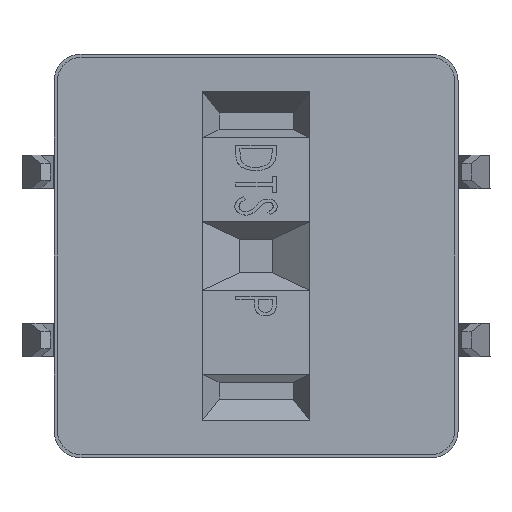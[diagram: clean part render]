
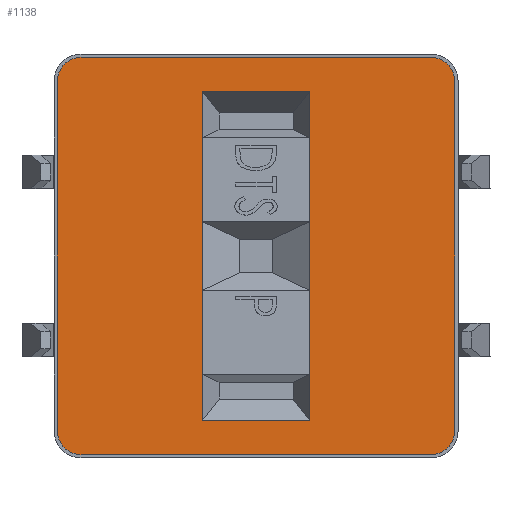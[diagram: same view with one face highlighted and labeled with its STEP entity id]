
A CAD part, front view. The second image highlights one B-rep face of the part: STEP entity #1138.
In plain terms, the highlighted planar face has unit normal (0, -1, 0).
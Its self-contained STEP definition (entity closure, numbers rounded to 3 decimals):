
#141 = VERTEX_POINT ( 'NONE', #6890 ) ;
#207 = ORIENTED_EDGE ( 'NONE', *, *, #1035, .T. ) ;
#245 = DIRECTION ( 'NONE',  ( 0., 0., -1. ) ) ;
#248 = DIRECTION ( 'NONE',  ( 0., -1., 0. ) ) ;
#250 = AXIS2_PLACEMENT_3D ( 'NONE', #6394, #6367, #6353 ) ;
#261 = ORIENTED_EDGE ( 'NONE', *, *, #6810, .T. ) ;
#336 = LINE ( 'NONE', #5105, #2547 ) ;
#341 = PLANE ( 'NONE',  #8314 ) ;
#406 = VERTEX_POINT ( 'NONE', #5178 ) ;
#413 = DIRECTION ( 'NONE',  ( 0., -1., 0. ) ) ;
#539 = CARTESIAN_POINT ( 'NONE',  ( -5.253, 0.542, -5.54 ) ) ;
#788 = CARTESIAN_POINT ( 'NONE',  ( -5.953, 0.542, -5.54 ) ) ;
#1012 = DIRECTION ( 'NONE',  ( 0., 0., -1. ) ) ;
#1013 = CARTESIAN_POINT ( 'NONE',  ( 1.547, 0.542, 4.56 ) ) ;
#1035 = EDGE_CURVE ( 'NONE', #10457, #2028, #8129, .T. ) ;
#1062 = ORIENTED_EDGE ( 'NONE', *, *, #7969, .T. ) ;
#1138 = ADVANCED_FACE ( 'NONE', ( #7958, #8070 ), #341, .T. ) ;
#1317 = CARTESIAN_POINT ( 'NONE',  ( -5.953, 0.542, 4.86 ) ) ;
#1442 = EDGE_CURVE ( 'NONE', #3507, #9257, #336, .T. ) ;
#1466 = VECTOR ( 'NONE', #1012, 1000. ) ;
#1723 = ORIENTED_EDGE ( 'NONE', *, *, #8645, .T. ) ;
#1908 = CARTESIAN_POINT ( 'NONE',  ( 5.147, 0.542, 4.86 ) ) ;
#2028 = VERTEX_POINT ( 'NONE', #7880 ) ;
#2242 = AXIS2_PLACEMENT_3D ( 'NONE', #8650, #9929, #2347 ) ;
#2347 = DIRECTION ( 'NONE',  ( 0., 0., -1. ) ) ;
#2425 = VERTEX_POINT ( 'NONE', #5225 ) ;
#2547 = VECTOR ( 'NONE', #3496, 1000. ) ;
#2551 = DIRECTION ( 'NONE',  ( 0., 0., -1. ) ) ;
#2736 = CIRCLE ( 'NONE', #5977, 0.7 ) ;
#2788 = DIRECTION ( 'NONE',  ( 0., 0., -1. ) ) ;
#2827 = DIRECTION ( 'NONE',  ( 0., 0., 1. ) ) ;
#3137 = VERTEX_POINT ( 'NONE', #1013 ) ;
#3404 = VECTOR ( 'NONE', #7117, 1000. ) ;
#3496 = DIRECTION ( 'NONE',  ( -1., 0., 0. ) ) ;
#3507 = VERTEX_POINT ( 'NONE', #10890 ) ;
#3513 = LINE ( 'NONE', #5436, #3404 ) ;
#3768 = CARTESIAN_POINT ( 'NONE',  ( 5.847, 0.542, -5.54 ) ) ;
#3851 = CIRCLE ( 'NONE', #2242, 0.7 ) ;
#4064 = CARTESIAN_POINT ( 'NONE',  ( 5.147, 0.542, -6.24 ) ) ;
#4081 = ORIENTED_EDGE ( 'NONE', *, *, #6441, .T. ) ;
#4124 = VERTEX_POINT ( 'NONE', #7025 ) ;
#4230 = EDGE_CURVE ( 'NONE', #2425, #10457, #5679, .T. ) ;
#4266 = ORIENTED_EDGE ( 'NONE', *, *, #7815, .T. ) ;
#4593 = VERTEX_POINT ( 'NONE', #3768 ) ;
#4989 = CARTESIAN_POINT ( 'NONE',  ( -5.253, 0.542, -6.24 ) ) ;
#5096 = VERTEX_POINT ( 'NONE', #4064 ) ;
#5105 = CARTESIAN_POINT ( 'NONE',  ( -5.253, 0.542, -5.24 ) ) ;
#5178 = CARTESIAN_POINT ( 'NONE',  ( -1.653, 0.542, 4.56 ) ) ;
#5225 = CARTESIAN_POINT ( 'NONE',  ( -5.253, 0.542, 5.56 ) ) ;
#5285 = DIRECTION ( 'NONE',  ( -1., 0., 0. ) ) ;
#5366 = LINE ( 'NONE', #7183, #5882 ) ;
#5436 = CARTESIAN_POINT ( 'NONE',  ( 5.847, 0.542, -5.54 ) ) ;
#5557 = VERTEX_POINT ( 'NONE', #8271 ) ;
#5641 = CARTESIAN_POINT ( 'NONE',  ( -5.253, 0.542, -5.54 ) ) ;
#5679 = CIRCLE ( 'NONE', #250, 0.7 ) ;
#5882 = VECTOR ( 'NONE', #2827, 1000. ) ;
#5977 = AXIS2_PLACEMENT_3D ( 'NONE', #5641, #413, #6527 ) ;
#6146 = CARTESIAN_POINT ( 'NONE',  ( -5.253, 0.542, 5.56 ) ) ;
#6353 = DIRECTION ( 'NONE',  ( 0., 0., -1. ) ) ;
#6367 = DIRECTION ( 'NONE',  ( 0., -1., 0. ) ) ;
#6394 = CARTESIAN_POINT ( 'NONE',  ( -5.253, 0.542, 4.86 ) ) ;
#6441 = EDGE_CURVE ( 'NONE', #3137, #3507, #10940, .T. ) ;
#6527 = DIRECTION ( 'NONE',  ( 0., 0., -1. ) ) ;
#6559 = EDGE_CURVE ( 'NONE', #4124, #5557, #7489, .T. ) ;
#6810 = EDGE_CURVE ( 'NONE', #406, #3137, #10557, .T. ) ;
#6835 = LINE ( 'NONE', #4989, #7267 ) ;
#6842 = AXIS2_PLACEMENT_3D ( 'NONE', #1908, #7997, #2788 ) ;
#6890 = CARTESIAN_POINT ( 'NONE',  ( -5.253, 0.542, -6.24 ) ) ;
#6987 = ORIENTED_EDGE ( 'NONE', *, *, #9725, .T. ) ;
#7025 = CARTESIAN_POINT ( 'NONE',  ( 5.847, 0.542, 4.86 ) ) ;
#7107 = ORIENTED_EDGE ( 'NONE', *, *, #4230, .T. ) ;
#7117 = DIRECTION ( 'NONE',  ( 0., 0., 1. ) ) ;
#7183 = CARTESIAN_POINT ( 'NONE',  ( -1.653, 0.542, -5.54 ) ) ;
#7267 = VECTOR ( 'NONE', #7547, 1000. ) ;
#7320 = EDGE_LOOP ( 'NONE', ( #8540, #261, #4081, #10259 ) ) ;
#7400 = EDGE_LOOP ( 'NONE', ( #6987, #9822, #4266, #10124, #1723, #7107, #207, #1062 ) ) ;
#7489 = CIRCLE ( 'NONE', #6842, 0.7 ) ;
#7547 = DIRECTION ( 'NONE',  ( 1., 0., 0. ) ) ;
#7707 = EDGE_CURVE ( 'NONE', #5096, #4593, #3851, .T. ) ;
#7815 = EDGE_CURVE ( 'NONE', #4593, #4124, #3513, .T. ) ;
#7880 = CARTESIAN_POINT ( 'NONE',  ( -5.953, 0.542, -5.54 ) ) ;
#7958 = FACE_OUTER_BOUND ( 'NONE', #7400, .T. ) ;
#7969 = EDGE_CURVE ( 'NONE', #2028, #141, #2736, .T. ) ;
#7997 = DIRECTION ( 'NONE',  ( 0., -1., 0. ) ) ;
#8070 = FACE_BOUND ( 'NONE', #7320, .T. ) ;
#8129 = LINE ( 'NONE', #788, #1466 ) ;
#8271 = CARTESIAN_POINT ( 'NONE',  ( 5.147, 0.542, 5.56 ) ) ;
#8314 = AXIS2_PLACEMENT_3D ( 'NONE', #539, #248, #245 ) ;
#8378 = VECTOR ( 'NONE', #2551, 1000. ) ;
#8540 = ORIENTED_EDGE ( 'NONE', *, *, #9436, .T. ) ;
#8587 = CARTESIAN_POINT ( 'NONE',  ( 1.547, 0.542, -5.54 ) ) ;
#8645 = EDGE_CURVE ( 'NONE', #5557, #2425, #8898, .T. ) ;
#8650 = CARTESIAN_POINT ( 'NONE',  ( 5.147, 0.542, -5.54 ) ) ;
#8828 = VECTOR ( 'NONE', #5285, 1000. ) ;
#8898 = LINE ( 'NONE', #6146, #8828 ) ;
#9257 = VERTEX_POINT ( 'NONE', #9370 ) ;
#9370 = CARTESIAN_POINT ( 'NONE',  ( -1.653, 0.542, -5.24 ) ) ;
#9436 = EDGE_CURVE ( 'NONE', #9257, #406, #5366, .T. ) ;
#9471 = DIRECTION ( 'NONE',  ( 1., 0., 0. ) ) ;
#9565 = CARTESIAN_POINT ( 'NONE',  ( -5.253, 0.542, 4.56 ) ) ;
#9725 = EDGE_CURVE ( 'NONE', #141, #5096, #6835, .T. ) ;
#9822 = ORIENTED_EDGE ( 'NONE', *, *, #7707, .T. ) ;
#9929 = DIRECTION ( 'NONE',  ( 0., -1., 0. ) ) ;
#10124 = ORIENTED_EDGE ( 'NONE', *, *, #6559, .T. ) ;
#10259 = ORIENTED_EDGE ( 'NONE', *, *, #1442, .T. ) ;
#10457 = VERTEX_POINT ( 'NONE', #1317 ) ;
#10544 = VECTOR ( 'NONE', #9471, 1000. ) ;
#10557 = LINE ( 'NONE', #9565, #10544 ) ;
#10890 = CARTESIAN_POINT ( 'NONE',  ( 1.547, 0.542, -5.24 ) ) ;
#10940 = LINE ( 'NONE', #8587, #8378 ) ;
